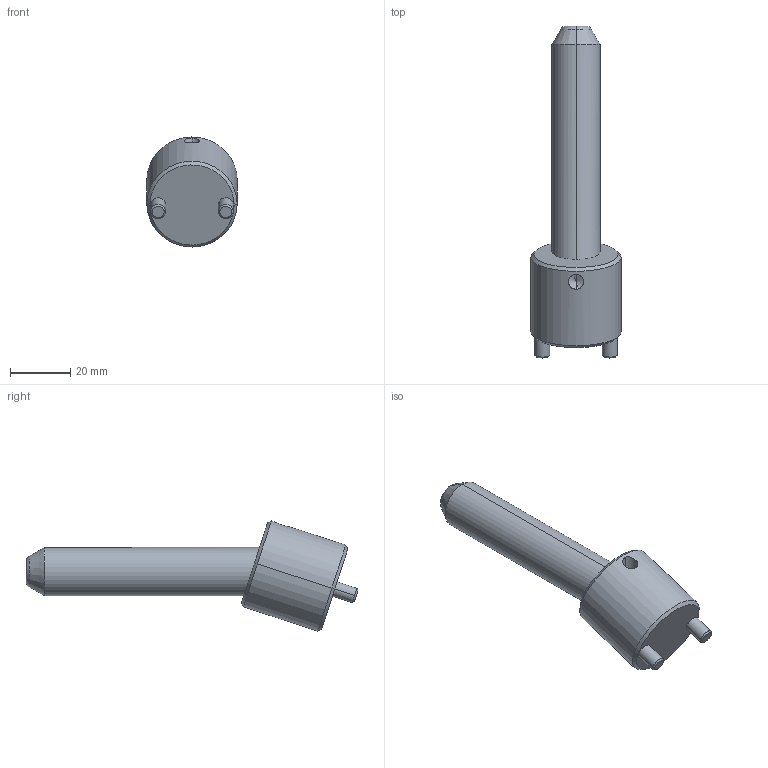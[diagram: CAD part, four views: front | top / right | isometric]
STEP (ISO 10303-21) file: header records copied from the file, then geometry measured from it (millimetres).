
FILE_DESCRIPTION(('CATIA V5 STEP Exchange'),'2;1');
FILE_NAME('C:\Users\Raffaele\Desktop\3D BOLEX\3D FILES CF BOLEX\19-INCLINED ASSEMBLY REF_CI\CI1816075.stp','2019-06-24T07:42:30+00:00',('none'),('none'),'CATIA Version 5 Release 20 GA (IN-10)','CATIA V5 STEP AP203','none');
FILE_SCHEMA(('CONFIG_CONTROL_DESIGN'));
Length unit declared in the file: millimetre
Products named in the file (1): CI1816075
Assembly tree (2 placements, depth 2):
  CI1816075
    #58
    #590
Bounding box: 30 x 110.31 x 36.57 mm (x, y, z)
Volume: 34335.1 mm3; surface area: 10697.8 mm2
Topology: 2 solids, 2 shells, 39 faces, 82 edges, 47 vertices
Faces by surface type: cone 14, cylinder 14, plane 7, torus 4
Entity records: 1485 total; most frequent: CARTESIAN_POINT 624, ORIENTED_EDGE 160, DIRECTION 146, EDGE_CURVE 80, AXIS2_PLACEMENT_3D 73, VERTEX_POINT 47, EDGE_LOOP 43, ADVANCED_FACE 39
